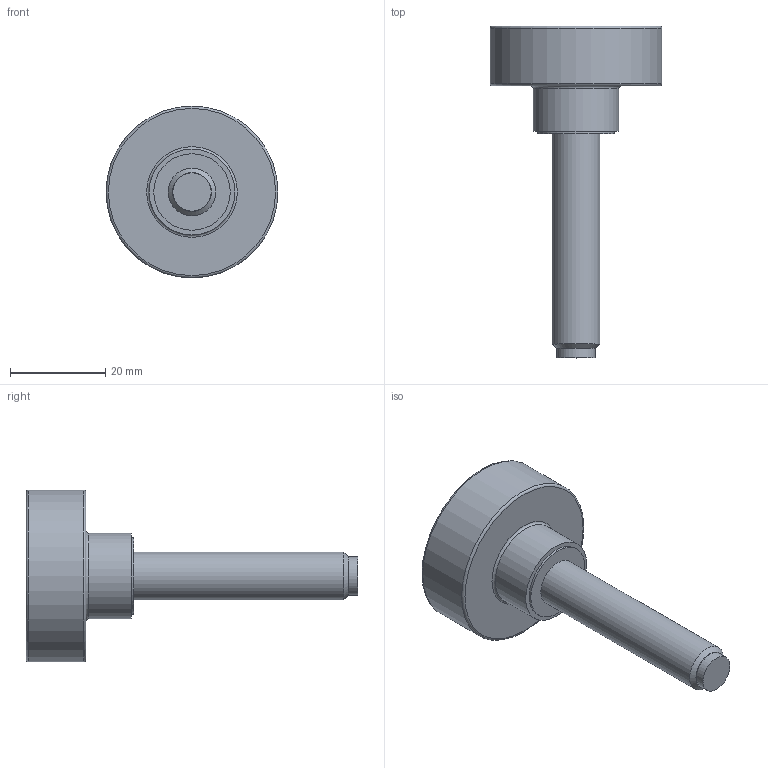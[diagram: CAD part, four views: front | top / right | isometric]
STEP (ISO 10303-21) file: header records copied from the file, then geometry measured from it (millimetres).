
FILE_DESCRIPTION( ( 'STEP AP203' ), '1' );
FILE_NAME( 'C:/Temp/Ganter_Step_05_03_2020/data/2_2/gn_421_10/Hollow knurled knob, with tip GN 421.10-M10-45-MS.stp', '2020-03-05T12:25:37', ( 'License CC BY-ND 4.0' ), ( 'CADENAS' ), ' ', 'PARTsolutions', ' ' );
FILE_SCHEMA( ( 'CONFIG_CONTROL_DESIGN' ) );
Length unit declared in the file: millimetre
Products named in the file (1): _Hollow knurled knob, with tip GN 421.10-M10-45-MS
Bounding box: 36 x 69.5 x 36 mm (x, y, z)
Volume: 12886 mm3; surface area: 6300.1 mm2
Topology: 1 solids, 1 shells, 19 faces, 30 edges, 19 vertices
Faces by surface type: plane 8, cylinder 7, torus 3, cone 1
Full cylindrical faces by diameter (mm): 8 x1, 10 x1, 14 x1, 16 x1, 18 x1, 31 x1, 36 x1
Entity records: 418 total; most frequent: DIRECTION 76, CARTESIAN_POINT 56, AXIS2_PLACEMENT_3D 38, EDGE_LOOP 36, ORIENTED_EDGE 36, FACE_OUTER_BOUND 29, ADVANCED_FACE 19, EDGE_CURVE 18
